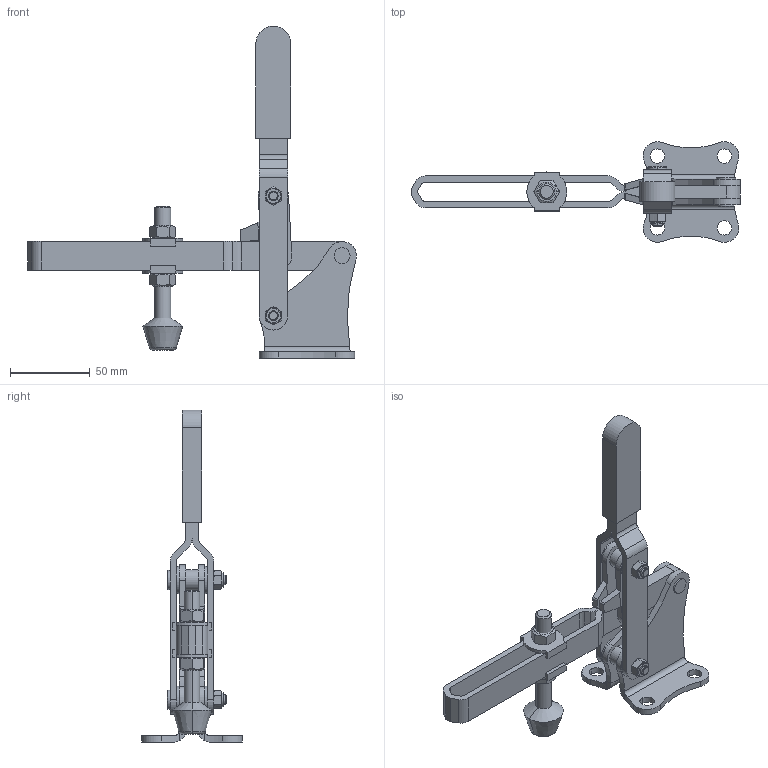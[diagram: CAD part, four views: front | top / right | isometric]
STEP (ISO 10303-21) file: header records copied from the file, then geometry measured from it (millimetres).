
FILE_DESCRIPTION(('CATIA V5 STEP Exchange'),'2;1');
FILE_NAME('D:\Model\toggle\toggle_standard\KJF_036_12F.stp','2005-06-24T05:14:25+00:00',('none'),('none'),'CATIA Version 5 Release 11 (IN-9)','CATIA V5 STEP AP203',' none');
FILE_SCHEMA(('CONFIG_CONTROL_DESIGN'));
Length unit declared in the file: millimetre
Products named in the file (1): Part1
Bounding box: 206 x 63 x 208 mm (x, y, z)
Volume: 126950.3 mm3; surface area: 70935.7 mm2
Topology: 25 solids, 25 shells, 371 faces, 926 edges, 612 vertices
Faces by surface type: cylinder 159, plane 154, cone 56, torus 2
Entity records: 11043 total; most frequent: CARTESIAN_POINT 2615, ORIENTED_EDGE 1852, DIRECTION 1386, EDGE_CURVE 926, AXIS2_PLACEMENT_3D 671, VERTEX_POINT 612, VECTOR 436, EDGE_LOOP 436
